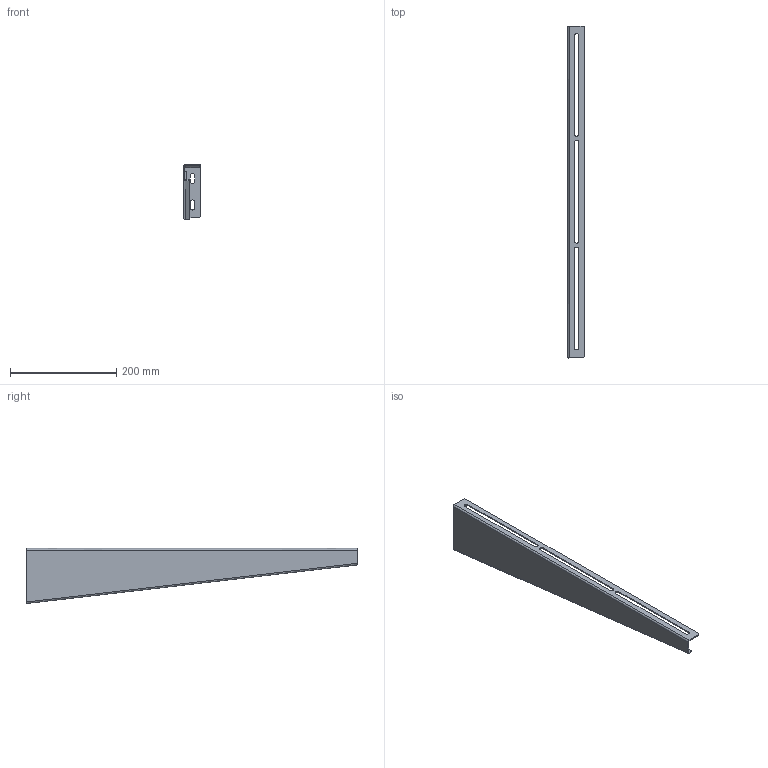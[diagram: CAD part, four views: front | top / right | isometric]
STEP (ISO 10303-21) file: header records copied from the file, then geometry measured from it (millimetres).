
FILE_DESCRIPTION(/* description */ (''),/* implementation_level */ '2;1');
FILE_NAME(/* name */ 'NZMU600_part',/* time_stamp */ '2022-09-01T12:32:01+02:00',/* author */ (''),/* organization */ (''),/* preprocessor_version */ 'ST-DEVELOPER v16.5',/* originating_system */ '',/* authorisation */ '');
FILE_SCHEMA (('CONFIG_CONTROL_DESIGN'));
Length unit declared in the file: millimetre
Products named in the file (1): Document
Bounding box: 31 x 626.17 x 103.99 mm (x, y, z)
Volume: 129689.4 mm3; surface area: 132947.8 mm2
Topology: 5 solids, 5 shells, 69 faces, 161 edges, 102 vertices
Faces by surface type: plane 49, cylinder 12, bspline 8
Entity records: 1937 total; most frequent: CARTESIAN_POINT 731, ORIENTED_EDGE 322, EDGE_CURVE 161, B_SPLINE_CURVE_WITH_KNOTS 107, VERTEX_POINT 102, EDGE_LOOP 79, ADVANCED_FACE 69, FACE_OUTER_BOUND 69
